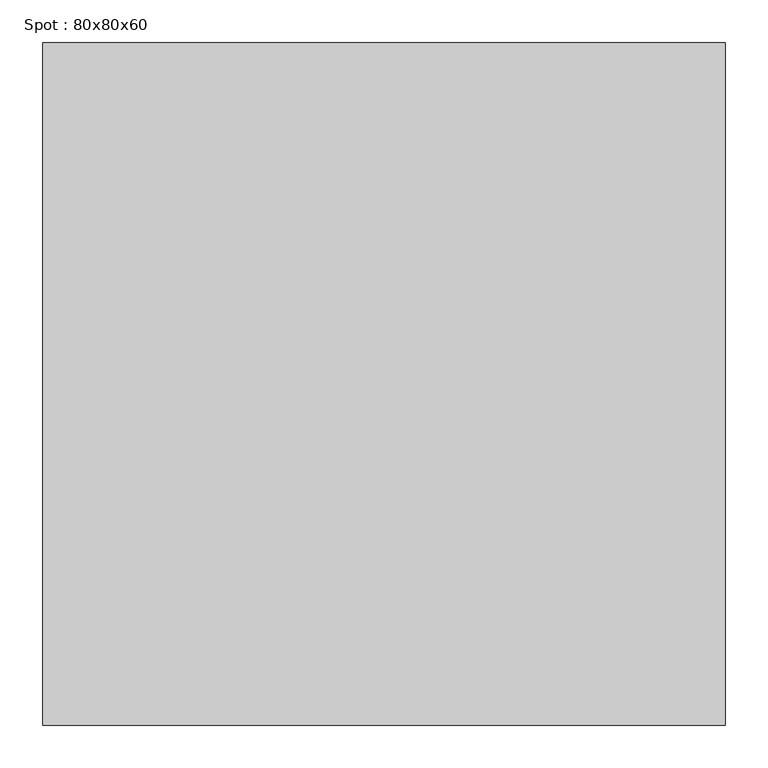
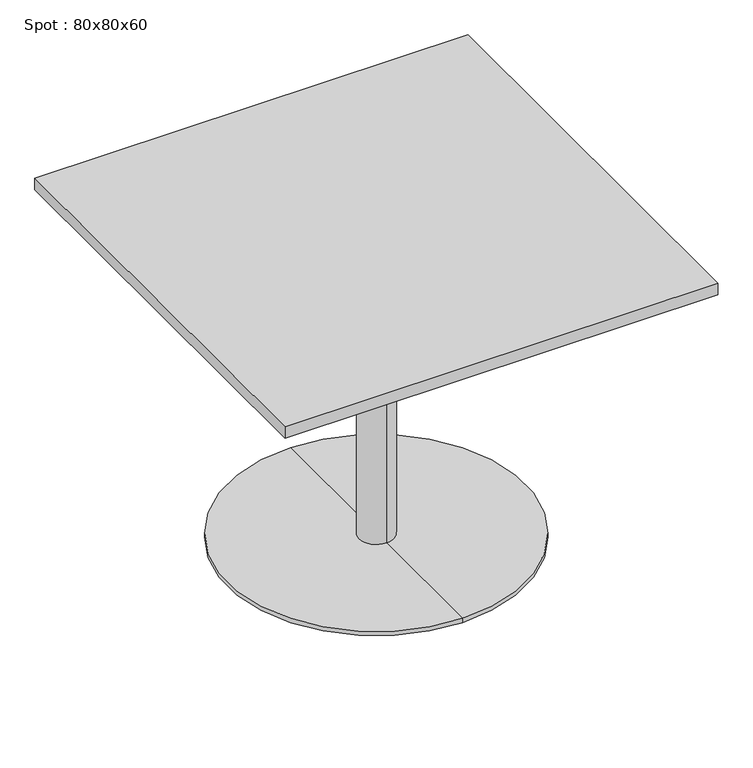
"""IFC4 building model written with IfcOpenShell, lengths in millimetres: furniture geometry, Spot : 80x80x60."""

import ifcopenshell
import ifcopenshell.guid

model = None  # the IFC model being written
_history = None  # IfcOwnerHistory: only IFC2X3 demands one
_inside = {}  # id of a spatial element -> (the spatial element, [elements in it])
_under = {}  # id of a project, library or spatial element -> (it, [spatial elements below it])
_declared = {}  # id of a project -> (the project, [libraries it declares])
_typed = {}  # id of a type object -> (the type object, [elements of that type])
_made_of = {}  # id of a material, layer set ... -> (it, [elements and type objects made of it])


def new_model(schema):
    """Start an empty IFC model of exactly this schema.

    Asked for "IFC4X3", IfcOpenShell would pick the latest addendum, in which some entities
    have other attributes; the version numbers below select the first issue.
    IFC2X3 requires an IfcOwnerHistory on every rooted entity: one is made here for all.
    """
    global model, _history
    if schema == "IFC4X3":
        model = ifcopenshell.file(schema_version=(4, 3, 0, 0))
    else:
        model = ifcopenshell.file(schema=schema)
    _inside.clear()
    _under.clear()
    _declared.clear()
    _typed.clear()
    _made_of.clear()
    _history = None
    if model.schema == "IFC2X3":
        org = make("IfcOrganization", Name="unknown")
        user = make(
            "IfcPersonAndOrganization",
            ThePerson=make("IfcPerson", FamilyName="unknown"),
            TheOrganization=org,
        )
        app = make(
            "IfcApplication",
            ApplicationDeveloper=org,
            Version="unknown",
            ApplicationFullName="unknown",
            ApplicationIdentifier="unknown",
        )
        _history = make(
            "IfcOwnerHistory",
            OwningUser=user,
            OwningApplication=app,
            ChangeAction="ADDED",
            CreationDate=0,
        )
    return model


def make(cls, **values):
    """One entity of the class cls with the attributes given. An attribute that is None is left unset."""
    return model.create_entity(
        cls, **{name: value for name, value in values.items() if value is not None}
    )


def rooted(cls, **values):
    """An entity with a GlobalId (a new one), such as an element, a storey or a relation."""
    return make(cls, GlobalId=ifcopenshell.guid.new(), OwnerHistory=_history, **values)


def si_unit(unit_type, name, prefix=None):
    """IfcSIUnit, for example si_unit("LENGTHUNIT", "METRE", prefix="MILLI")."""
    return make("IfcSIUnit", UnitType=unit_type, Prefix=prefix, Name=name)


def assignment(units):
    """IfcUnitAssignment: the units of a project."""
    return None if units is None else make("IfcUnitAssignment", Units=units)


def point(xyz):
    """IfcCartesianPoint."""
    return None if xyz is None else make("IfcCartesianPoint", Coordinates=xyz)


def direction(xyz):
    """IfcDirection."""
    return None if xyz is None else make("IfcDirection", DirectionRatios=xyz)


def frame(location, z_axis=None, x_axis=None):
    """IfcAxis2Placement3D, a coordinate frame: its origin and axes. An axis left out is left unset."""
    return make(
        "IfcAxis2Placement3D",
        Location=point(location),
        Axis=direction(z_axis),
        RefDirection=direction(x_axis),
    )


def origin():
    """The frame at (0, 0, 0) with its axes left unset."""
    return frame((0.0, 0.0, 0.0))


def place(relative_to, where):
    """IfcLocalPlacement: puts the frame where relative to a parent placement (None: the world)."""
    return make(
        "IfcLocalPlacement", PlacementRelTo=relative_to, RelativePlacement=where
    )


def context(
    kind, dimensions, precision=None, world=None, true_north=None, identifier=None
):
    """IfcGeometricRepresentationContext, for example the 3D "Model" context."""
    return make(
        "IfcGeometricRepresentationContext",
        ContextIdentifier=identifier,
        ContextType=kind,
        CoordinateSpaceDimension=dimensions,
        Precision=precision,
        WorldCoordinateSystem=world,
        TrueNorth=true_north,
    )


def project(units=None, contexts=None):
    """IfcProject with its units and contexts."""
    return rooted(
        "IfcProject",
        Name="project",
        RepresentationContexts=contexts,
        UnitsInContext=assignment(units),
    )


def spatial(cls, under=None, at=None, **own):
    """A site, building, storey or space (cls), placed at a placement, below another one or the project."""
    s = rooted(cls, ObjectPlacement=at, **own)
    if under is not None:
        _under.setdefault(under.id(), (under, []))[1].append(s)
    return s


def polyline(points):
    """IfcPolyline through the points."""
    return make("IfcPolyline", Points=[point(p) for p in points])


def circle_curve(where, radius):
    """IfcCircle in the frame where."""
    return make("IfcCircle", Position=where, Radius=radius)


def outline(outer, holes=None, kind="AREA"):
    """IfcArbitraryClosedProfileDef: a profile drawn as a closed curve; with holes, ...WithVoids."""
    if holes is None:
        return make("IfcArbitraryClosedProfileDef", ProfileType=kind, OuterCurve=outer)
    return make(
        "IfcArbitraryProfileDefWithVoids",
        ProfileType=kind,
        OuterCurve=outer,
        InnerCurves=holes,
    )


def extrude(swept, where, along, depth):
    """IfcExtrudedAreaSolid: the profile swept, set in the frame where, extruded along a direction by depth."""
    return make(
        "IfcExtrudedAreaSolid",
        SweptArea=swept,
        Position=where,
        ExtrudedDirection=direction(along),
        Depth=depth,
    )


def shape(context_of_items, identifier, shape_type, items):
    """IfcShapeRepresentation: the items that make up one representation, for example the "Body"."""
    return make(
        "IfcShapeRepresentation",
        ContextOfItems=context_of_items,
        RepresentationIdentifier=identifier,
        RepresentationType=shape_type,
        Items=items,
    )


def source(mapping_origin, context_of_items, identifier, shape_type, items):
    """IfcRepresentationMap: a shape defined once, which mapped items show again and again."""
    return make(
        "IfcRepresentationMap",
        MappingOrigin=mapping_origin,
        MappedRepresentation=shape(context_of_items, identifier, shape_type, items),
    )


def transform(
    local_origin,
    x_axis=None,
    y_axis=None,
    z_axis=None,
    scale=None,
    scale2=None,
    scale3=None,
    uniform=True,
):
    """IfcCartesianTransformationOperator3D, or its non-uniform kind. x_axis, y_axis, z_axis: its Axis1, 2, 3."""
    if uniform:
        return make(
            "IfcCartesianTransformationOperator3D",
            Axis1=direction(x_axis),
            Axis2=direction(y_axis),
            LocalOrigin=point(local_origin),
            Scale=scale,
            Axis3=direction(z_axis),
        )
    return make(
        "IfcCartesianTransformationOperator3DnonUniform",
        Axis1=direction(x_axis),
        Axis2=direction(y_axis),
        LocalOrigin=point(local_origin),
        Scale=scale,
        Axis3=direction(z_axis),
        Scale2=scale2,
        Scale3=scale3,
    )


def mapped(mapping_source, mapping_target):
    """IfcMappedItem: shows the shape of a source again, moved by a transform."""
    return make(
        "IfcMappedItem", MappingSource=mapping_source, MappingTarget=mapping_target
    )


def made_of(thing, what):
    """Note that an element or type object is made of a material, layer set ...; save() writes the relation."""
    if what is not None:
        _made_of.setdefault(what.id(), (what, []))[1].append(thing)
    return thing


def element(
    cls,
    number,
    at=None,
    inside=None,
    cuts=None,
    type_object=None,
    material=None,
    context=None,
    identifier="Body",
    shape_type=None,
    held_by="IfcProductDefinitionShape",
    body=None,
    shapes=None,
    **own,
):
    """One element of the class cls, such as IfcWall. Its Tag is "e" and its number.

    at: its placement. inside: the storey or other place that contains it. cuts: it is an
    opening in that element (IfcRelVoidsElement). A single representation is given by context,
    identifier, shape_type and body (its items); several are given by shapes. held_by: the class
    of the entity that holds the representations. save() writes the other relations.
    """
    e = rooted(cls, Tag="e%d" % number, ObjectPlacement=at, **own)
    if body is not None:
        shapes = [shape(context, identifier, shape_type, body)]
    if shapes is not None:
        e.Representation = make(held_by, Representations=shapes)
    if inside is not None:
        _inside.setdefault(inside.id(), (inside, []))[1].append(e)
    if cuts is not None:
        rooted(
            "IfcRelVoidsElement", RelatingBuildingElement=cuts, RelatedOpeningElement=e
        )
    if type_object is not None:
        _typed.setdefault(type_object.id(), (type_object, []))[1].append(e)
    return made_of(e, material)


def aggregate(whole, parts):
    """IfcRelAggregates: a whole, such as a stair, and the parts it consists of."""
    return rooted("IfcRelAggregates", RelatingObject=whole, RelatedObjects=parts)


def save(model, path):
    """Write the relations noted so far, then the file.

    IfcRelAggregates (storeys below a building ...), IfcRelContainedInSpatialStructure (elements
    in a storey), IfcRelDefinesByType, IfcRelAssociatesMaterial and IfcRelDeclares: one each for
    every whole, place, type object, material and project.
    """
    for whole, parts in _under.values():
        aggregate(whole, parts)
    for where, things in _inside.values():
        rooted(
            "IfcRelContainedInSpatialStructure",
            RelatedElements=things,
            RelatingStructure=where,
        )
    for kind, things in _typed.values():
        rooted("IfcRelDefinesByType", RelatedObjects=things, RelatingType=kind)
    for what, things in _made_of.values():
        rooted("IfcRelAssociatesMaterial", RelatedObjects=things, RelatingMaterial=what)
    for by, libraries in _declared.values():
        rooted("IfcRelDeclares", RelatingContext=by, RelatedDefinitions=libraries)
    model.write(path)


def plane_surface(at):
    """IfcPlane: the flat surface through the origin of the frame at, square to its z axis."""
    return make("IfcPlane", Position=at)


def cylinder_surface(at, radius):
    """IfcCylindricalSurface: all points at the distance radius from the z axis of the frame at."""
    return make("IfcCylindricalSurface", Position=at, Radius=radius)


def revolved_surface(curve, axis_point, axis_direction):
    """IfcSurfaceOfRevolution: the curve turned about the line through axis_point along axis_direction."""
    return make(
        "IfcSurfaceOfRevolution",
        SweptCurve=make("IfcArbitraryOpenProfileDef", ProfileType="CURVE", Curve=curve),
        AxisPosition=make("IfcAxis1Placement", Location=point(axis_point), Axis=direction(axis_direction)),
    )


def advanced_brep(points, edges, surfaces, faces):
    """IfcAdvancedBrep: a solid bounded by faces that lie on surfaces and meet in shared edges.

    An edge is (start, end): straight between two places in points (the first is 0);
    or (start, end, curve); or (start, end, curve, False) where it runs against its curve.
    A face is (place in surfaces, loops), or (place, loops, False) where it looks against
    its surface's normal. A loop lists edges by number (the first is 1), with a minus sign
    where the edge is run from its end to its start. The first loop is the outer one.
    """
    corners = [point(p) for p in points]
    vertices = [make("IfcVertexPoint", VertexGeometry=c) for c in corners]
    made = []
    for start, end, *more in edges:
        made.append(
            make(
                "IfcEdgeCurve",
                EdgeStart=vertices[start],
                EdgeEnd=vertices[end],
                EdgeGeometry=more[0] if more else make("IfcPolyline", Points=[corners[start], corners[end]]),
                SameSense=more[1] if len(more) > 1 else True,
            )
        )
    hull = []
    for where, loops, *sense in faces:
        bounds = []
        for j, loop in enumerate(loops):
            ring = [make("IfcOrientedEdge", EdgeElement=made[abs(k) - 1], Orientation=k > 0) for k in loop]
            bounds.append(
                make(
                    "IfcFaceOuterBound" if j == 0 else "IfcFaceBound",
                    Bound=make("IfcEdgeLoop", EdgeList=ring),
                    Orientation=True,
                )
            )
        hull.append(make("IfcAdvancedFace", Bounds=bounds, FaceSurface=surfaces[where], SameSense=sense[0] if sense else True))
    return make("IfcAdvancedBrep", Outer=make("IfcClosedShell", CfsFaces=hull))


def spot_80x80x60_5c8a2310(model_context):
    return source(origin(), model_context, "Body", "SolidModel", [
        extrude(outline(polyline([(400.0, 400.0), (400.0, -400.0), (-400.0, -400.0), (-400.0, 400.0), (400.0, 400.0)])), frame((0.0, 0.0, 578.0), z_axis=(0.0, 0.0, 1.0), x_axis=(1.0, 0.0, 0.0)), (0.0, 0.0, 1.0), 22.0),
        advanced_brep(
        [(0.0, 32.0, 10.0), (0.0, -32.0, 10.0), (0.0, -32.0, 547.406916), (0.0, 32.0, 547.406916), (0.0, 275.0, 10.0), (0.0, -275.0, 10.0), (0.0, 275.0, 2.0), (0.0, -275.0, 2.0), (0.0, 0.0, 2.0), (0.0, 150.0, 578.0), (0.0, -150.0, 578.0), (0.0, 0.0, 578.0), (0.0, 150.0, 566.7213673), (0.0, -150.0, 566.7213673)],
        [
            (0, 1, circle_curve(frame((0.0, 0.0, 10.0), z_axis=(0.0, 0.0, 1.0), x_axis=(0.0, -1.0, 0.0)), 32.0)),
            (1, 2),
            (2, 3, circle_curve(frame((0.0, 0.0, 547.406916), z_axis=(0.0, 0.0, -1.0), x_axis=(0.0, -1.0, 0.0)), 32.0)),
            (3, 0),
            (1, 0, circle_curve(frame((0.0, 0.0, 10.0), z_axis=(0.0, 0.0, 1.0), x_axis=(0.0, -1.0, 0.0)), 32.0)),
            (3, 2, circle_curve(frame((0.0, 0.0, 547.406916), z_axis=(0.0, 0.0, -1.0), x_axis=(0.0, -1.0, 0.0)), 32.0)),
            (4, 5, circle_curve(frame((0.0, 0.0, 10.0), z_axis=(0.0, 0.0, 1.0), x_axis=(0.0, -1.0, 0.0)), 275.0)),
            (5, 1),
            (0, 4),
            (5, 4, circle_curve(frame((0.0, 0.0, 10.0), z_axis=(0.0, 0.0, 1.0), x_axis=(0.0, -1.0, 0.0)), 275.0)),
            (6, 7, circle_curve(frame((0.0, 0.0, 2.0), z_axis=(0.0, 0.0, 1.0), x_axis=(0.0, -1.0, 0.0)), 275.0)),
            (7, 5),
            (4, 6),
            (7, 6, circle_curve(frame((0.0, 0.0, 2.0), z_axis=(0.0, 0.0, 1.0), x_axis=(0.0, -1.0, 0.0)), 275.0)),
            (8, 7),
            (6, 8),
            (9, 10, circle_curve(frame((0.0, 0.0, 578.0), z_axis=(0.0, 0.0, 1.0), x_axis=(0.0, -1.0, 0.0)), 150.0)),
            (10, 11),
            (11, 9),
            (10, 9, circle_curve(frame((0.0, 0.0, 578.0), z_axis=(0.0, 0.0, 1.0), x_axis=(0.0, -1.0, 0.0)), 150.0)),
            (12, 13, circle_curve(frame((0.0, 0.0, 566.7213673), z_axis=(0.0, 0.0, 1.0), x_axis=(0.0, -1.0, 0.0)), 150.0)),
            (13, 10),
            (9, 12),
            (13, 12, circle_curve(frame((0.0, 0.0, 566.7213673), z_axis=(0.0, 0.0, 1.0), x_axis=(0.0, -1.0, 0.0)), 150.0)),
            (2, 13),
            (12, 3),
        ],
        [
            cylinder_surface(frame((0.0, 0.0, 940.0), z_axis=(0.0, 0.0, -1.0), x_axis=(0.0, -1.0, 0.0)), 32.0),
            plane_surface(frame((0.0, 0.0, 10.0), z_axis=(0.0, 0.0, 1.0), x_axis=(0.0, -1.0, 0.0))),
            cylinder_surface(frame((0.0, 0.0, 940.0), z_axis=(0.0, 0.0, -1.0), x_axis=(0.0, -1.0, 0.0)), 275.0),
            plane_surface(frame((0.0, 0.0, 2.0), z_axis=(0.0, 0.0, -1.0), x_axis=(0.0, -1.0, 0.0))),
            plane_surface(frame((0.0, 0.0, 578.0), z_axis=(0.0, 0.0, 1.0), x_axis=(0.0, -1.0, 0.0))),
            cylinder_surface(frame((0.0, 0.0, 940.0), z_axis=(0.0, 0.0, -1.0), x_axis=(0.0, -1.0, 0.0)), 150.0),
            revolved_surface(polyline([(0.0, -150.0, 566.7213673), (0.0, -32.0, 547.406916)]), (0.0, 0.0, 940.0), (0.0, 0.0, -1.0)),
        ],
        [
            (0, [[1, 2, 3, 4]]),
            (0, [[5, -4, 6, -2]]),
            (1, [[7, 8, -1, 9]]),
            (1, [[10, -9, -5, -8]]),
            (2, [[11, 12, -7, 13]]),
            (2, [[14, -13, -10, -12]]),
            (3, [[15, -11, 16]]),
            (3, [[-16, -14, -15]]),
            (4, [[17, 18, 19]]),
            (4, [[20, -19, -18]]),
            (5, [[21, 22, -17, 23]]),
            (5, [[24, -23, -20, -22]]),
            (6, [[-3, 25, -21, 26]]),
            (6, [[-6, -26, -24, -25]]),
        ],
    ),
    ])


if __name__ == "__main__":
    model = new_model("IFC4")
    model_context = context("Model", 3, world=origin())
    ifc_project = project(units=[si_unit("LENGTHUNIT", "METRE", prefix="MILLI")], contexts=[model_context])
    site = spatial("IfcSite", under=ifc_project)
    building = spatial("IfcBuilding", under=site)
    placement = place(None, origin())
    spot_80x80x60_shape = spot_80x80x60_5c8a2310(model_context)
    element("IfcFurniture", 1, ObjectType="Spot : 80x80x60", at=placement, inside=building, context=model_context, shape_type="MappedRepresentation", body=[
        mapped(spot_80x80x60_shape, transform((0.0, 0.0, 0.0), x_axis=(1.0, 0.0, 0.0), y_axis=(0.0, 1.0, 0.0), z_axis=(0.0, 0.0, 1.0))),
    ])
    save(model, "model.ifc")
